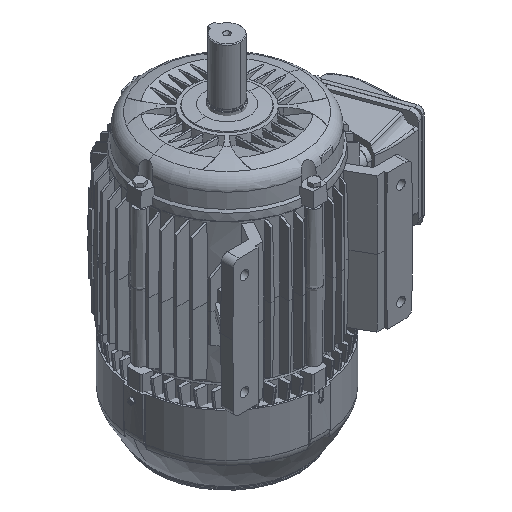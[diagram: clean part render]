
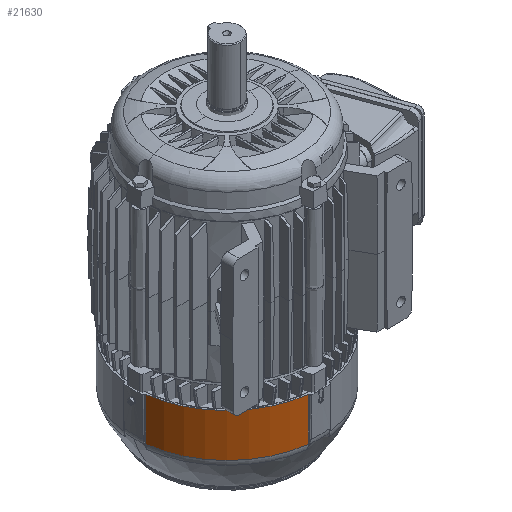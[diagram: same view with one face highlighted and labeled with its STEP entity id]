
A CAD part, isometric view. The second image highlights one B-rep face of the part: STEP entity #21630.
In plain terms, the highlighted cylindrical face has radius 127.75 mm (diameter 255.5 mm), a partial arc.
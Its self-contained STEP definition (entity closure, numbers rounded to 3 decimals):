
#1684 = ORIENTED_EDGE ( 'NONE', *, *, #18305, .T. ) ;
#3782 = CARTESIAN_POINT ( 'NONE',  ( 0., 0., -121.8 ) ) ;
#9814 = EDGE_CURVE ( 'NONE', #91218, #106468, #102175, .T. ) ;
#12213 = DIRECTION ( 'NONE',  ( 0., -1., 0. ) ) ;
#18305 = EDGE_CURVE ( 'NONE', #69393, #20527, #97940, .T. ) ;
#18986 = ORIENTED_EDGE ( 'NONE', *, *, #102744, .T. ) ;
#20527 = VERTEX_POINT ( 'NONE', #26582 ) ;
#21492 = CIRCLE ( 'NONE', #77071, 127.75 ) ;
#21630 = ADVANCED_FACE ( 'NONE', ( #34639 ), #98830, .T. ) ;
#22324 = DIRECTION ( 'NONE',  ( 0., 0., -1. ) ) ;
#22513 = DIRECTION ( 'NONE',  ( 0., 0., 1. ) ) ;
#26582 = CARTESIAN_POINT ( 'NONE',  ( -126.88, -14.883, -181.532 ) ) ;
#33249 = EDGE_LOOP ( 'NONE', ( #18986, #33282, #63916, #1684 ) ) ;
#33282 = ORIENTED_EDGE ( 'NONE', *, *, #9814, .T. ) ;
#33731 = VECTOR ( 'NONE', #59361, 1000. ) ;
#34639 = FACE_OUTER_BOUND ( 'NONE', #33249, .T. ) ;
#40307 = CIRCLE ( 'NONE', #49368, 127.75 ) ;
#40986 = DIRECTION ( 'NONE',  ( 0., 0., 1. ) ) ;
#42550 = CARTESIAN_POINT ( 'NONE',  ( -126.88, -14.883, -251.749 ) ) ;
#44660 = CARTESIAN_POINT ( 'NONE',  ( -14.883, -126.88, -121.8 ) ) ;
#47581 = DIRECTION ( 'NONE',  ( 0., -1., 0. ) ) ;
#49368 = AXIS2_PLACEMENT_3D ( 'NONE', #72731, #22513, #81189 ) ;
#51513 = EDGE_CURVE ( 'NONE', #106468, #69393, #21492, .T. ) ;
#59361 = DIRECTION ( 'NONE',  ( 0., 0., -1. ) ) ;
#62422 = DIRECTION ( 'NONE',  ( 0., 0., -1. ) ) ;
#63916 = ORIENTED_EDGE ( 'NONE', *, *, #51513, .T. ) ;
#65876 = CARTESIAN_POINT ( 'NONE',  ( -14.883, -126.88, -251.749 ) ) ;
#69393 = VERTEX_POINT ( 'NONE', #70938 ) ;
#70938 = CARTESIAN_POINT ( 'NONE',  ( -126.88, -14.883, -121.8 ) ) ;
#72731 = CARTESIAN_POINT ( 'NONE',  ( 0., 0., -181.532 ) ) ;
#77071 = AXIS2_PLACEMENT_3D ( 'NONE', #3782, #62422, #12213 ) ;
#81189 = DIRECTION ( 'NONE',  ( 0., 1., 0. ) ) ;
#85461 = CARTESIAN_POINT ( 'NONE',  ( -14.883, -126.88, -181.532 ) ) ;
#89360 = CARTESIAN_POINT ( 'NONE',  ( 0., 0., -251.749 ) ) ;
#91218 = VERTEX_POINT ( 'NONE', #85461 ) ;
#97940 = LINE ( 'NONE', #42550, #33731 ) ;
#98830 = CYLINDRICAL_SURFACE ( 'NONE', #106363, 127.75 ) ;
#99559 = VECTOR ( 'NONE', #40986, 1000. ) ;
#102175 = LINE ( 'NONE', #65876, #99559 ) ;
#102744 = EDGE_CURVE ( 'NONE', #20527, #91218, #40307, .T. ) ;
#106363 = AXIS2_PLACEMENT_3D ( 'NONE', #89360, #22324, #47581 ) ;
#106468 = VERTEX_POINT ( 'NONE', #44660 ) ;
